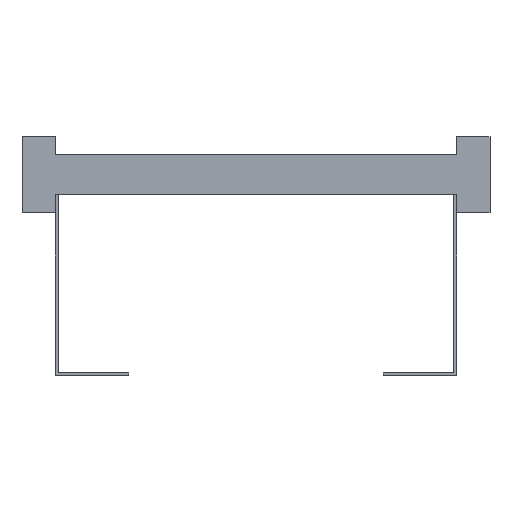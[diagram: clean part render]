
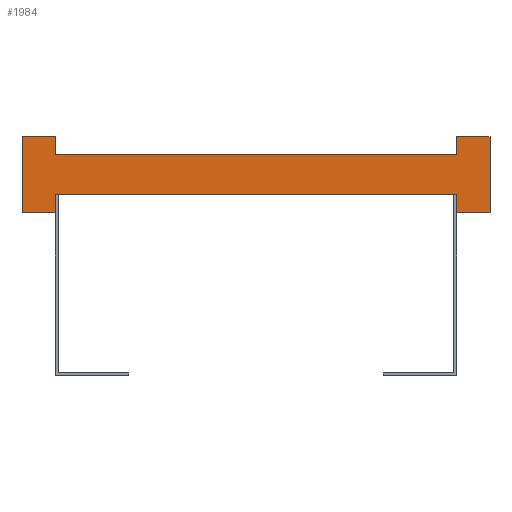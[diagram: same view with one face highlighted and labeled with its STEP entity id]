
A CAD part, front view. The second image highlights one B-rep face of the part: STEP entity #1984.
In plain terms, the highlighted planar face has unit normal (0, -1, 0).
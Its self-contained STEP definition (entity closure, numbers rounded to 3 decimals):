
#1=DIRECTION('',(0.,0.,1.));
#2=VECTOR('',#1,13.5);
#3=CARTESIAN_POINT('',(150.,0.,-28.5));
#4=LINE('',#3,#2);
#5=DIRECTION('',(0.,0.,-1.));
#6=VECTOR('',#5,13.5);
#7=CARTESIAN_POINT('',(-150.,0.,-15.));
#8=LINE('',#7,#6);
#9=DIRECTION('',(-1.,0.,0.));
#10=VECTOR('',#9,25.);
#11=CARTESIAN_POINT('',(-150.,0.,-28.5));
#12=LINE('',#11,#10);
#13=DIRECTION('',(0.,0.,1.));
#14=VECTOR('',#13,57.);
#15=CARTESIAN_POINT('',(-175.,0.,-28.5));
#16=LINE('',#15,#14);
#17=DIRECTION('',(1.,0.,0.));
#18=VECTOR('',#17,25.);
#19=CARTESIAN_POINT('',(-175.,0.,28.5));
#20=LINE('',#19,#18);
#21=DIRECTION('',(0.,0.,-1.));
#22=VECTOR('',#21,13.5);
#23=CARTESIAN_POINT('',(-150.,0.,28.5));
#24=LINE('',#23,#22);
#25=DIRECTION('',(0.,0.,1.));
#26=VECTOR('',#25,13.5);
#27=CARTESIAN_POINT('',(150.,0.,15.));
#28=LINE('',#27,#26);
#29=DIRECTION('',(1.,0.,0.));
#30=VECTOR('',#29,25.);
#31=CARTESIAN_POINT('',(150.,0.,28.5));
#32=LINE('',#31,#30);
#33=DIRECTION('',(0.,0.,-1.));
#34=VECTOR('',#33,57.);
#35=CARTESIAN_POINT('',(175.,0.,28.5));
#36=LINE('',#35,#34);
#37=DIRECTION('',(-1.,0.,0.));
#38=VECTOR('',#37,25.);
#39=CARTESIAN_POINT('',(175.,0.,-28.5));
#40=LINE('',#39,#38);
#1457=DIRECTION('',(1.,0.,0.));
#1458=VECTOR('',#1457,300.);
#1459=CARTESIAN_POINT('',(-150.,0.,-15.));
#1460=LINE('',#1459,#1458);
#1469=DIRECTION('',(1.,0.,0.));
#1470=VECTOR('',#1469,300.);
#1471=CARTESIAN_POINT('',(-150.,0.,15.));
#1472=LINE('',#1471,#1470);
#1473=CARTESIAN_POINT('',(-175.,0.,28.5));
#1474=CARTESIAN_POINT('',(-150.,0.,28.5));
#1475=VERTEX_POINT('',#1473);
#1476=VERTEX_POINT('',#1474);
#1477=CARTESIAN_POINT('',(-150.,0.,-28.5));
#1478=CARTESIAN_POINT('',(-175.,0.,-28.5));
#1479=VERTEX_POINT('',#1477);
#1480=VERTEX_POINT('',#1478);
#1481=CARTESIAN_POINT('',(175.,0.,28.5));
#1482=CARTESIAN_POINT('',(175.,0.,-28.5));
#1483=VERTEX_POINT('',#1481);
#1484=VERTEX_POINT('',#1482);
#1485=CARTESIAN_POINT('',(150.,0.,-28.5));
#1486=VERTEX_POINT('',#1485);
#1487=CARTESIAN_POINT('',(150.,0.,28.5));
#1488=VERTEX_POINT('',#1487);
#1505=CARTESIAN_POINT('',(-150.,0.,-15.));
#1507=VERTEX_POINT('',#1505);
#1509=CARTESIAN_POINT('',(-150.,0.,15.));
#1511=VERTEX_POINT('',#1509);
#1513=CARTESIAN_POINT('',(150.,0.,-15.));
#1515=VERTEX_POINT('',#1513);
#1517=CARTESIAN_POINT('',(150.,0.,15.));
#1519=VERTEX_POINT('',#1517);
#1953=CARTESIAN_POINT('',(0.,0.,0.));
#1954=DIRECTION('',(0.,1.,0.));
#1955=DIRECTION('',(1.,0.,0.));
#1956=AXIS2_PLACEMENT_3D('',#1953,#1954,#1955);
#1957=PLANE('',#1956);
#1959=ORIENTED_EDGE('',*,*,#1958,.T.);
#1961=ORIENTED_EDGE('',*,*,#1960,.F.);
#1963=ORIENTED_EDGE('',*,*,#1962,.T.);
#1965=ORIENTED_EDGE('',*,*,#1964,.T.);
#1967=ORIENTED_EDGE('',*,*,#1966,.T.);
#1969=ORIENTED_EDGE('',*,*,#1968,.T.);
#1971=ORIENTED_EDGE('',*,*,#1970,.T.);
#1973=ORIENTED_EDGE('',*,*,#1972,.T.);
#1975=ORIENTED_EDGE('',*,*,#1974,.T.);
#1977=ORIENTED_EDGE('',*,*,#1976,.T.);
#1979=ORIENTED_EDGE('',*,*,#1978,.T.);
#1981=ORIENTED_EDGE('',*,*,#1980,.T.);
#1982=EDGE_LOOP('',(#1959,#1961,#1963,#1965,#1967,#1969,#1971,#1973,#1975,#1977,
#1979,#1981));
#1983=FACE_OUTER_BOUND('',#1982,.F.);
#1984=ADVANCED_FACE('',(#1983),#1957,.F.);
#1958=EDGE_CURVE('',#1486,#1515,#4,.T.);
#1960=EDGE_CURVE('',#1507,#1515,#1460,.T.);
#1962=EDGE_CURVE('',#1507,#1479,#8,.T.);
#1964=EDGE_CURVE('',#1479,#1480,#12,.T.);
#1966=EDGE_CURVE('',#1480,#1475,#16,.T.);
#1968=EDGE_CURVE('',#1475,#1476,#20,.T.);
#1970=EDGE_CURVE('',#1476,#1511,#24,.T.);
#1972=EDGE_CURVE('',#1511,#1519,#1472,.T.);
#1974=EDGE_CURVE('',#1519,#1488,#28,.T.);
#1976=EDGE_CURVE('',#1488,#1483,#32,.T.);
#1978=EDGE_CURVE('',#1483,#1484,#36,.T.);
#1980=EDGE_CURVE('',#1484,#1486,#40,.T.);
